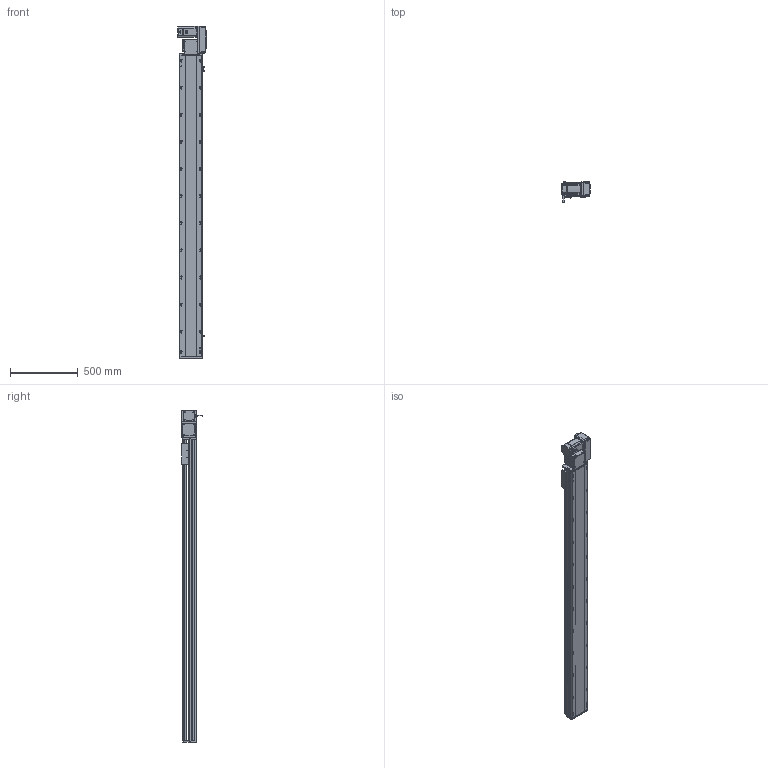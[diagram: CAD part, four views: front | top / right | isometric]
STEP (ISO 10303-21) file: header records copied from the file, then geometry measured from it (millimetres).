
FILE_DESCRIPTION (( 'STEP AP214' ), '1' );
FILE_NAME ('RTB17S-XX-1950-R-M75-C4.STEP', '2025-12-12T01:40:54', ( '' ), ( '' ), 'SwSTEP 2.0', 'SolidWorks 2018', '' );
FILE_SCHEMA (( 'AUTOMOTIVE_DESIGN' ));
Length unit declared in the file: millimetre
Products named in the file (15): RTB22S-GY-008-M75--萇儂啣^RTB17S-R-々湍釱蚾饜-750W_RTB17S-XX-XX-R-M75-C4; RTB17-R-011菁釱^RTB17S-XX-XX-R-M75-C4; RTB22S-GY-018P^RTB17S-R-々湍釱蚾饜-750W_RTB17S-XX-XX-R-M75-C4; RTB17S-L-004-賑釱^RTB17S-賑釱_RTB17S-XX-XX-R-M75-C4; RTB17S-R-々湍釱蚾饜-750W^RTB17S-XX-XX-R-M75-C4; RTB17S-L-007奻裔^RTB17S-XX-XX-R-M75-C4; RTB22S-GY-017P^RTB17S-R-々湍釱蚾饜-750W_RTB17S-XX-XX-R-M75-C4; RTB17S-L-014-T20-P75--々湍釱^RTB17S-R-々湍釱蚾饜-750W_RTB17S-XX-XX-R-M75-C4; 750W萇儂^RTB17S-XX-XX-R-M75-C4; RTH13-BL-012覜茼え俋离^RTB17S-賑釱_RTB17S-XX-XX-R-M75-C4; RTB17S-L-001-耜醱啣^RTB17S-XX-XX-R-M75-C4; RTB17S-賑釱^RTB17S-XX-XX-R-M75-C4; EE672^RTB17S-XX-XX-R-M75-C4; RTB17S-XX-1950-R-M75-C4; RTB22S-GY-005P^RTB17S-R-々湍釱蚾饜-750W_RTB17S-XX-XX-R-M75-C4
Assembly tree (17 placements, depth 3):
  RTB17S-XX-1950-R-M75-C4
    RTB17-R-011菁釱^RTB17S-XX-XX-R-M75-C4
    EE672^RTB17S-XX-XX-R-M75-C4  x3
    RTB17S-L-001-耜醱啣^RTB17S-XX-XX-R-M75-C4
    RTB17S-賑釱^RTB17S-XX-XX-R-M75-C4
      RTB17S-L-004-賑釱^RTB17S-賑釱_RTB17S-XX-XX-R-M75-C4
      RTH13-BL-012覜茼え俋离^RTB17S-賑釱_RTB17S-XX-XX-R-M75-C4
    RTB17S-L-007奻裔^RTB17S-XX-XX-R-M75-C4
    750W萇儂^RTB17S-XX-XX-R-M75-C4
    RTB17S-R-々湍釱蚾饜-750W^RTB17S-XX-XX-R-M75-C4
      RTB17S-L-014-T20-P75--々湍釱^RTB17S-R-々湍釱蚾饜-750W_RTB17S-XX-XX-R-M75-C4
      RTB22S-GY-005P^RTB17S-R-々湍釱蚾饜-750W_RTB17S-XX-XX-R-M75-C4
      RTB22S-GY-017P^RTB17S-R-々湍釱蚾饜-750W_RTB17S-XX-XX-R-M75-C4  x2
      RTB22S-GY-008-M75--萇儂啣^RTB17S-R-々湍釱蚾饜-750W_RTB17S-XX-XX-R-M75-C4
      RTB22S-GY-018P^RTB17S-R-々湍釱蚾饜-750W_RTB17S-XX-XX-R-M75-C4
Bounding box: 207.4 x 152.7 x 2449 mm (x, y, z)
Volume: 18139740 mm3; surface area: 3237831.8 mm2
Topology: 17 solids, 17 shells, 2169 faces, 6052 edges, 3914 vertices
Faces by surface type: plane 980, cylinder 773, bspline 294, cone 110, sphere 8, torus 4
Entity records: 61942 total; most frequent: CARTESIAN_POINT 18316, ORIENTED_EDGE 8948, DIRECTION 8312, EDGE_CURVE 4474, AXIS2_PLACEMENT_3D 2934, VERTEX_POINT 2918, LINE 2444, VECTOR 2444
